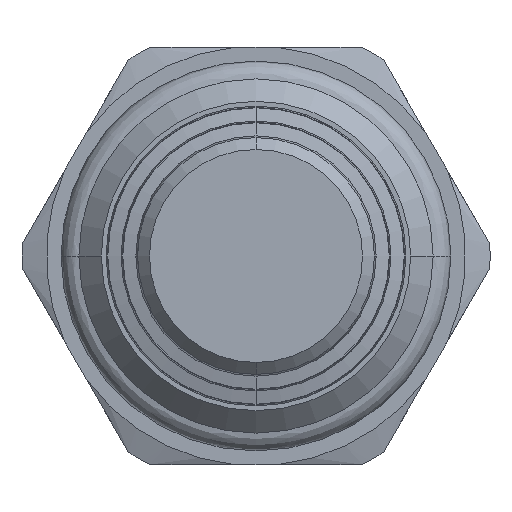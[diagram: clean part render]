
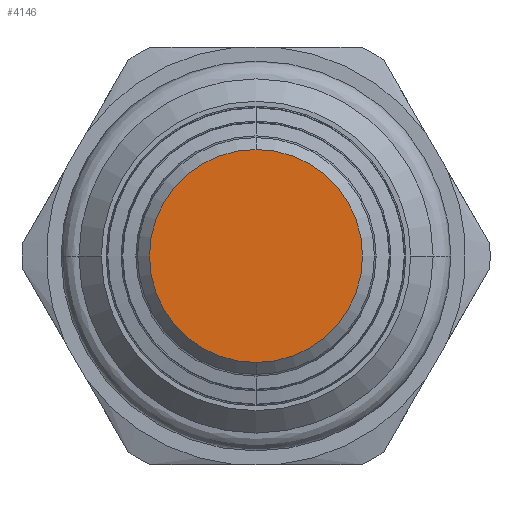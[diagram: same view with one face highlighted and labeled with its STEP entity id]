
A CAD part, front view. The second image highlights one B-rep face of the part: STEP entity #4146.
In plain terms, the highlighted planar face has unit normal (0, -1, 0).
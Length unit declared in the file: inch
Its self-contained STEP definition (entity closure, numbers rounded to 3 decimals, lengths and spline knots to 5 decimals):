
#642=CARTESIAN_POINT('',(0.,-2.148,0.));
#643=DIRECTION('',(0.,-1.,0.));
#644=DIRECTION('',(0.,0.,1.));
#645=AXIS2_PLACEMENT_3D('',#642,#643,#644);
#652=CARTESIAN_POINT('',(0.,-2.148,0.));
#653=DIRECTION('',(0.,-1.,0.));
#654=DIRECTION('',(0.,0.,-1.));
#655=AXIS2_PLACEMENT_3D('',#652,#653,#654);
#2935=CARTESIAN_POINT('',(0.,-2.148,0.2235));
#2936=CARTESIAN_POINT('',(0.,-2.148,-0.2235));
#2937=VERTEX_POINT('',#2935);
#2938=VERTEX_POINT('',#2936);
#4136=CARTESIAN_POINT('',(0.,-2.148,0.));
#4137=DIRECTION('',(0.,-1.,0.));
#4138=DIRECTION('',(-1.,0.,0.));
#4139=AXIS2_PLACEMENT_3D('',#4136,#4137,#4138);
#4140=PLANE('',#4139);
#4142=ORIENTED_EDGE('',*,*,#4141,.F.);
#4143=ORIENTED_EDGE('',*,*,#4126,.F.);
#4144=EDGE_LOOP('',(#4142,#4143));
#4145=FACE_OUTER_BOUND('',#4144,.F.);
#4146=ADVANCED_FACE('',(#4145),#4140,.T.);
#646=CIRCLE('',#645,0.2235);
#656=CIRCLE('',#655,0.2235);
#4126=EDGE_CURVE('',#2937,#2938,#646,.T.);
#4141=EDGE_CURVE('',#2938,#2937,#656,.T.);
